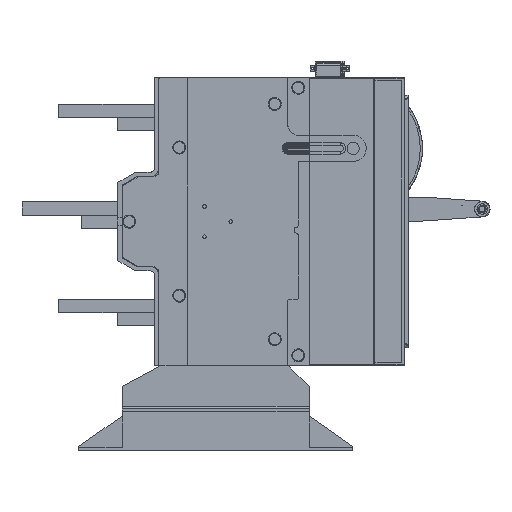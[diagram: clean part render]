
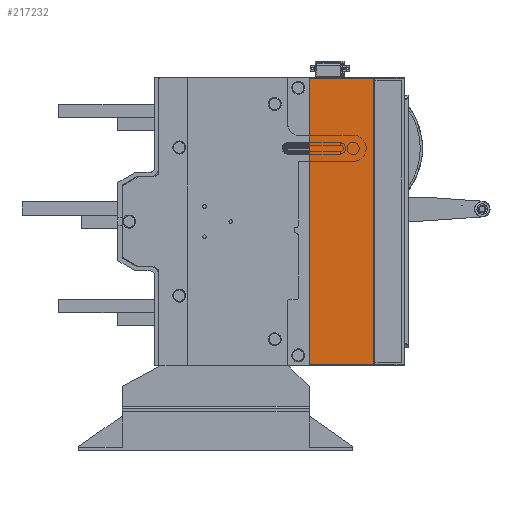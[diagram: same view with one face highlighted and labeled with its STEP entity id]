
A CAD part, left-side view. The second image highlights one B-rep face of the part: STEP entity #217232.
In plain terms, the highlighted planar face has unit normal (-1, 0, 0) as drawn and (1, 0, 0) by its records, which use the part's own axes.
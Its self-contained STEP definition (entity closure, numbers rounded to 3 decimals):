
#5275 = CARTESIAN_POINT ( 'NONE',  ( 250., 0., 74. ) ) ;
#7368 = FACE_OUTER_BOUND ( 'NONE', #280019, .T. ) ;
#14581 = ORIENTED_EDGE ( 'NONE', *, *, #21031, .T. ) ;
#17395 = VERTEX_POINT ( 'NONE', #179569 ) ;
#20326 = VECTOR ( 'NONE', #39622, 1000. ) ;
#21031 = EDGE_CURVE ( 'NONE', #51564, #17395, #257261, .T. ) ;
#25289 = LINE ( 'NONE', #5275, #110983 ) ;
#27672 = CARTESIAN_POINT ( 'NONE',  ( 250., 164.5, 0.5 ) ) ;
#28945 = CARTESIAN_POINT ( 'NONE',  ( 250., -164.5, 0.5 ) ) ;
#39622 = DIRECTION ( 'NONE',  ( 0., 0., 1. ) ) ;
#46176 = VECTOR ( 'NONE', #137287, 1000. ) ;
#51564 = VERTEX_POINT ( 'NONE', #27672 ) ;
#81184 = CARTESIAN_POINT ( 'NONE',  ( 250., 164.5, 0. ) ) ;
#86728 = VERTEX_POINT ( 'NONE', #28945 ) ;
#93341 = DIRECTION ( 'NONE',  ( 0., 1., 0. ) ) ;
#107650 = VERTEX_POINT ( 'NONE', #273508 ) ;
#110515 = CARTESIAN_POINT ( 'NONE',  ( 250., -165., 0. ) ) ;
#110983 = VECTOR ( 'NONE', #248685, 1000. ) ;
#113385 = PLANE ( 'NONE',  #137412 ) ;
#114455 = LINE ( 'NONE', #266091, #46176 ) ;
#114824 = LINE ( 'NONE', #202059, #129792 ) ;
#129792 = VECTOR ( 'NONE', #137668, 1000. ) ;
#134779 = DIRECTION ( 'NONE',  ( 1., 0., 0. ) ) ;
#137287 = DIRECTION ( 'NONE',  ( 0., 0., -1. ) ) ;
#137412 = AXIS2_PLACEMENT_3D ( 'NONE', #110515, #134779, #93341 ) ;
#137668 = DIRECTION ( 'NONE',  ( 0., 1., 0. ) ) ;
#151923 = EDGE_CURVE ( 'NONE', #107650, #86728, #114455, .T. ) ;
#153946 = EDGE_CURVE ( 'NONE', #107650, #17395, #25289, .T. ) ;
#164578 = ORIENTED_EDGE ( 'NONE', *, *, #153946, .F. ) ;
#179569 = CARTESIAN_POINT ( 'NONE',  ( 250., 164.5, 74. ) ) ;
#202059 = CARTESIAN_POINT ( 'NONE',  ( 250., -165., 0.5 ) ) ;
#217232 = ADVANCED_FACE ( 'NONE', ( #7368 ), #113385, .T. ) ;
#237899 = ORIENTED_EDGE ( 'NONE', *, *, #238657, .T. ) ;
#238657 = EDGE_CURVE ( 'NONE', #86728, #51564, #114824, .T. ) ;
#248685 = DIRECTION ( 'NONE',  ( 0., 1., 0. ) ) ;
#257261 = LINE ( 'NONE', #81184, #20326 ) ;
#262814 = ORIENTED_EDGE ( 'NONE', *, *, #151923, .T. ) ;
#266091 = CARTESIAN_POINT ( 'NONE',  ( 250., -164.5, 0. ) ) ;
#273508 = CARTESIAN_POINT ( 'NONE',  ( 250., -164.5, 74. ) ) ;
#280019 = EDGE_LOOP ( 'NONE', ( #262814, #237899, #14581, #164578 ) ) ;
